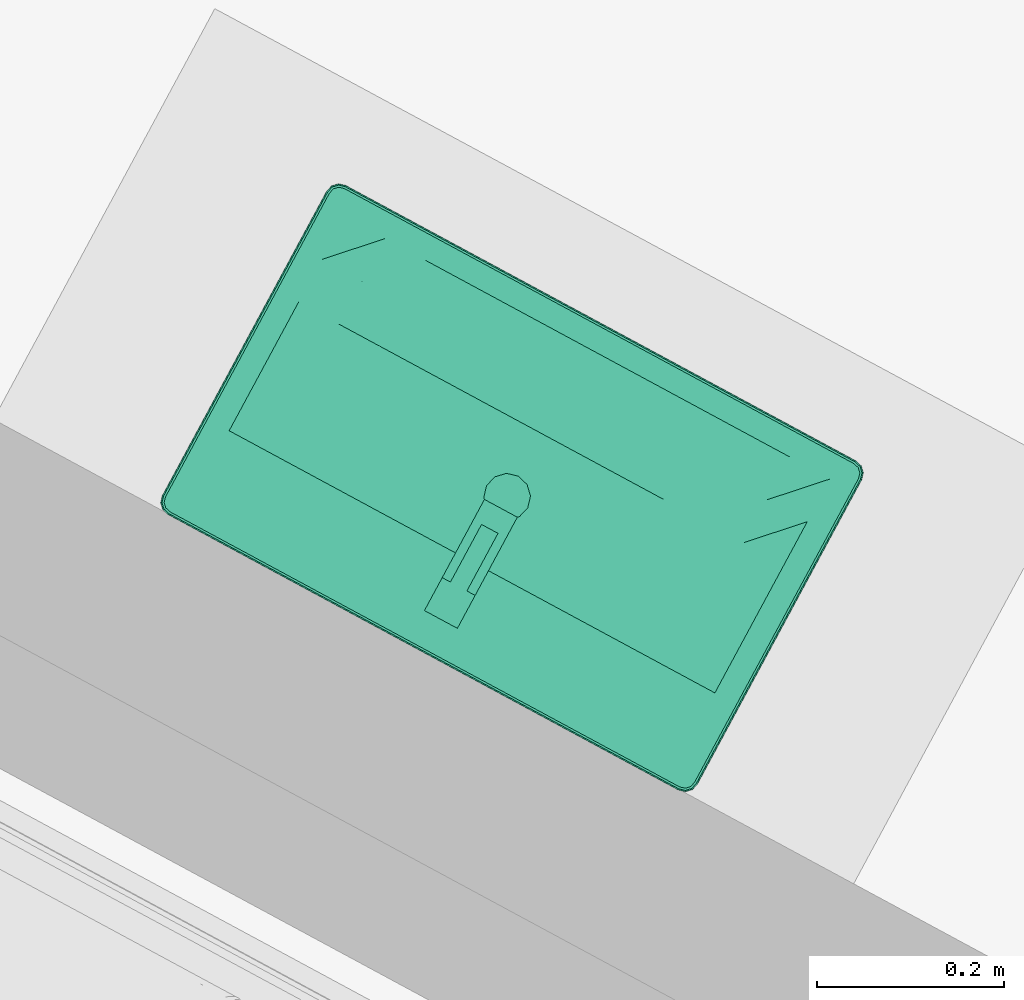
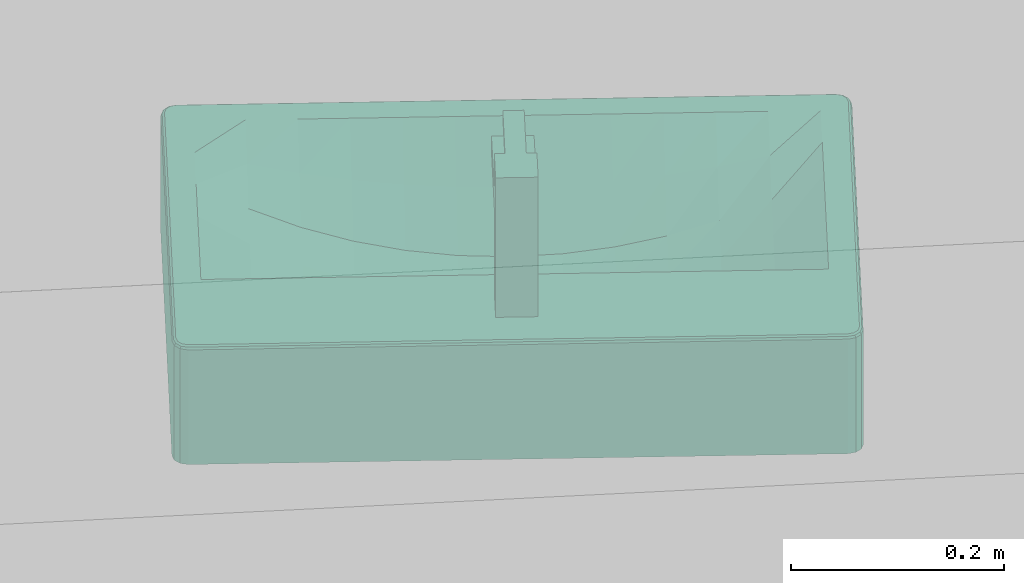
# One storey, part 16 of 41: 1 flow terminal.
"""IFC2X3 building model written with IfcOpenShell, lengths in metres."""

import ifcopenshell
import ifcopenshell.guid

model = None  # the IFC model being written
_history = None  # IfcOwnerHistory: only IFC2X3 demands one
_inside = {}  # id of a spatial element -> (the spatial element, [elements in it])
_under = {}  # id of a project, library or spatial element -> (it, [spatial elements below it])
_declared = {}  # id of a project -> (the project, [libraries it declares])
_typed = {}  # id of a type object -> (the type object, [elements of that type])
_made_of = {}  # id of a material, layer set ... -> (it, [elements and type objects made of it])


def new_model(schema):
    """Start an empty IFC model of exactly this schema.

    Asked for "IFC4X3", IfcOpenShell would pick the latest addendum, in which some entities
    have other attributes; the version numbers below select the first issue.
    IFC2X3 requires an IfcOwnerHistory on every rooted entity: one is made here for all.
    """
    global model, _history
    if schema == "IFC4X3":
        model = ifcopenshell.file(schema_version=(4, 3, 0, 0))
    else:
        model = ifcopenshell.file(schema=schema)
    _inside.clear()
    _under.clear()
    _declared.clear()
    _typed.clear()
    _made_of.clear()
    _history = None
    if model.schema == "IFC2X3":
        org = make("IfcOrganization", Name="unknown")
        user = make(
            "IfcPersonAndOrganization",
            ThePerson=make("IfcPerson", FamilyName="unknown"),
            TheOrganization=org,
        )
        app = make(
            "IfcApplication",
            ApplicationDeveloper=org,
            Version="unknown",
            ApplicationFullName="unknown",
            ApplicationIdentifier="unknown",
        )
        _history = make(
            "IfcOwnerHistory",
            OwningUser=user,
            OwningApplication=app,
            ChangeAction="ADDED",
            CreationDate=0,
        )
    return model


def make(cls, **values):
    """One entity of the class cls with the attributes given. An attribute that is None is left unset."""
    return model.create_entity(
        cls, **{name: value for name, value in values.items() if value is not None}
    )


def entity(cls, *values):
    """Any entity or typed value of the class cls, its attributes in the order of the schema. None: left unset."""
    e = model.create_entity(cls)
    for i, value in enumerate(values):
        if value is not None:
            e[i] = value
    return e


def rooted(cls, **values):
    """An entity with a GlobalId (a new one), such as an element, a storey or a relation."""
    return make(cls, GlobalId=ifcopenshell.guid.new(), OwnerHistory=_history, **values)


def si_unit(unit_type, name, prefix=None):
    """IfcSIUnit, for example si_unit("LENGTHUNIT", "METRE", prefix="MILLI")."""
    return make("IfcSIUnit", UnitType=unit_type, Prefix=prefix, Name=name)


def converted_unit(unit_type, name, factor, base, dimensions=None, offset=None):
    """IfcConversionBasedUnit, such as the inch: factor (a typed value) times the base unit."""
    return make(
        "IfcConversionBasedUnit"
        if offset is None
        else "IfcConversionBasedUnitWithOffset",
        ConversionOffset=offset,
        Dimensions=None
        if dimensions is None
        else entity("IfcDimensionalExponents", *dimensions),
        UnitType=unit_type,
        Name=name,
        ConversionFactor=make(
            "IfcMeasureWithUnit", ValueComponent=factor, UnitComponent=base
        ),
    )


def derived_unit(unit_type, elements):
    """IfcDerivedUnit: a product of units, each with its exponent."""
    return make(
        "IfcDerivedUnit",
        Elements=[
            make("IfcDerivedUnitElement", Unit=unit, Exponent=power)
            for unit, power in elements
        ],
        UnitType=unit_type,
    )


def money_unit(currency):
    """IfcMonetaryUnit."""
    return make("IfcMonetaryUnit", Currency=currency)


def assignment(units):
    """IfcUnitAssignment: the units of a project."""
    return None if units is None else make("IfcUnitAssignment", Units=units)


def point(xyz):
    """IfcCartesianPoint."""
    return None if xyz is None else make("IfcCartesianPoint", Coordinates=xyz)


def direction(xyz):
    """IfcDirection."""
    return None if xyz is None else make("IfcDirection", DirectionRatios=xyz)


def frame(location, z_axis=None, x_axis=None):
    """IfcAxis2Placement3D, a coordinate frame: its origin and axes. An axis left out is left unset."""
    return make(
        "IfcAxis2Placement3D",
        Location=point(location),
        Axis=direction(z_axis),
        RefDirection=direction(x_axis),
    )


def origin_with_axes():
    """The frame at (0, 0, 0) with the z axis (0, 0, 1) and the x axis (1, 0, 0) written out."""
    return frame((0.0, 0.0, 0.0), z_axis=(0.0, 0.0, 1.0), x_axis=(1.0, 0.0, 0.0))


def place(relative_to, where):
    """IfcLocalPlacement: puts the frame where relative to a parent placement (None: the world)."""
    return make(
        "IfcLocalPlacement", PlacementRelTo=relative_to, RelativePlacement=where
    )


def context(
    kind, dimensions, precision=None, world=None, true_north=None, identifier=None
):
    """IfcGeometricRepresentationContext, for example the 3D "Model" context."""
    return make(
        "IfcGeometricRepresentationContext",
        ContextIdentifier=identifier,
        ContextType=kind,
        CoordinateSpaceDimension=dimensions,
        Precision=precision,
        WorldCoordinateSystem=world,
        TrueNorth=true_north,
    )


def subcontext(parent, identifier, kind, view, scale=None):
    """IfcGeometricRepresentationSubContext, for example "Body" below "Model"."""
    return make(
        "IfcGeometricRepresentationSubContext",
        ContextIdentifier=identifier,
        ContextType=kind,
        ParentContext=parent,
        TargetScale=scale,
        TargetView=view,
    )


def project(units=None, contexts=None):
    """IfcProject with its units and contexts."""
    return rooted(
        "IfcProject",
        Name="project",
        RepresentationContexts=contexts,
        UnitsInContext=assignment(units),
    )


def spatial(cls, under=None, at=None, **own):
    """A site, building, storey or space (cls), placed at a placement, below another one or the project."""
    s = rooted(cls, ObjectPlacement=at, **own)
    if under is not None:
        _under.setdefault(under.id(), (under, []))[1].append(s)
    return s


def faces_of(points, faces, orient=None, outer=None):
    """IfcFace entities. A face is a list of loops; a loop is a list of indices into points, from 0.

    orient and outer hold one flag for each loop. By default every Orientation is true, the
    first loop of a face is its IfcFaceOuterBound and the others are IfcFaceBound.
    """
    made = []
    for i, loops in enumerate(faces):
        bounds = []
        for j, loop in enumerate(loops):
            is_outer = j == 0 if outer is None else outer[i][j]
            bounds.append(
                make(
                    "IfcFaceOuterBound" if is_outer else "IfcFaceBound",
                    Bound=make("IfcPolyLoop", Polygon=[points[k] for k in loop]),
                    Orientation=True if orient is None else orient[i][j],
                )
            )
        made.append(make("IfcFace", Bounds=bounds))
    return made


def open_shell(faces, orient=None, outer=None):
    """The faces of one IfcOpenShell. surface_model builds it on its shared points."""
    return ("IfcOpenShell", faces, orient, outer)


def faceted_brep(points, faces, orient=None, outer=None, voids=None):
    """IfcFacetedBrep: a solid bounded by flat faces; with voids (closed shells), ...WithVoids."""
    shared = [point(p) for p in points]
    hull = make("IfcClosedShell", CfsFaces=faces_of(shared, faces, orient, outer))
    if voids is None:
        return make("IfcFacetedBrep", Outer=hull)
    return make(
        "IfcFacetedBrepWithVoids",
        Outer=hull,
        Voids=[
            make(cls, CfsFaces=faces_of(shared, fs, o, b)) for cls, fs, o, b in voids
        ],
    )


def surface_model(cls, points, shells):
    """IfcFaceBasedSurfaceModel or IfcShellBasedSurfaceModel (cls): surfaces that need not close."""
    shared = [point(p) for p in points]
    made = [make(c, CfsFaces=faces_of(shared, fs, o, b)) for c, fs, o, b in shells]
    if cls == "IfcFaceBasedSurfaceModel":
        return make(cls, FbsmFaces=made)
    return make(cls, SbsmBoundary=made)


def shape(context_of_items, identifier, shape_type, items):
    """IfcShapeRepresentation: the items that make up one representation, for example the "Body"."""
    return make(
        "IfcShapeRepresentation",
        ContextOfItems=context_of_items,
        RepresentationIdentifier=identifier,
        RepresentationType=shape_type,
        Items=items,
    )


def made_of(thing, what):
    """Note that an element or type object is made of a material, layer set ...; save() writes the relation."""
    if what is not None:
        _made_of.setdefault(what.id(), (what, []))[1].append(thing)
    return thing


def type_object(cls, material=None, **own):
    """A type object (cls), such as IfcWallType, which elements share."""
    return made_of(rooted(cls, **own), material)


def element(
    cls,
    number,
    at=None,
    inside=None,
    cuts=None,
    type_object=None,
    material=None,
    context=None,
    identifier="Body",
    shape_type=None,
    held_by="IfcProductDefinitionShape",
    body=None,
    shapes=None,
    **own,
):
    """One element of the class cls, such as IfcWall. Its Tag is "e" and its number.

    at: its placement. inside: the storey or other place that contains it. cuts: it is an
    opening in that element (IfcRelVoidsElement). A single representation is given by context,
    identifier, shape_type and body (its items); several are given by shapes. held_by: the class
    of the entity that holds the representations. save() writes the other relations.
    """
    e = rooted(cls, Tag="e%d" % number, ObjectPlacement=at, **own)
    if body is not None:
        shapes = [shape(context, identifier, shape_type, body)]
    if shapes is not None:
        e.Representation = make(held_by, Representations=shapes)
    if inside is not None:
        _inside.setdefault(inside.id(), (inside, []))[1].append(e)
    if cuts is not None:
        rooted(
            "IfcRelVoidsElement", RelatingBuildingElement=cuts, RelatedOpeningElement=e
        )
    if type_object is not None:
        _typed.setdefault(type_object.id(), (type_object, []))[1].append(e)
    return made_of(e, material)


def aggregate(whole, parts):
    """IfcRelAggregates: a whole, such as a stair, and the parts it consists of."""
    return rooted("IfcRelAggregates", RelatingObject=whole, RelatedObjects=parts)


def save(model, path):
    """Write the relations noted so far, then the file.

    IfcRelAggregates (storeys below a building ...), IfcRelContainedInSpatialStructure (elements
    in a storey), IfcRelDefinesByType, IfcRelAssociatesMaterial and IfcRelDeclares: one each for
    every whole, place, type object, material and project.
    """
    for whole, parts in _under.values():
        aggregate(whole, parts)
    for where, things in _inside.values():
        rooted(
            "IfcRelContainedInSpatialStructure",
            RelatedElements=things,
            RelatingStructure=where,
        )
    for kind, things in _typed.values():
        rooted("IfcRelDefinesByType", RelatedObjects=things, RelatingType=kind)
    for what, things in _made_of.values():
        rooted("IfcRelAssociatesMaterial", RelatedObjects=things, RelatingMaterial=what)
    for by, libraries in _declared.values():
        rooted("IfcRelDeclares", RelatingContext=by, RelatedDefinitions=libraries)
    model.write(path)


model = new_model("IFC2X3")

# Units and contexts
model_context = context("Model", 3, precision=1e-05, world=origin_with_axes(), true_north=direction((0.0, 1.0)))
body_context = subcontext(model_context, "Body", "Model", "MODEL_VIEW")
ifc_project = project(units=[si_unit("LENGTHUNIT", "METRE"), si_unit("AREAUNIT", "SQUARE_METRE"), si_unit("VOLUMEUNIT", "CUBIC_METRE"), converted_unit("PLANEANGLEUNIT", "DEGREE", entity("IfcPlaneAngleMeasure", 0.0174532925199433), si_unit("PLANEANGLEUNIT", "RADIAN"), dimensions=[0, 0, 0, 0, 0, 0, 0]), money_unit("EUR"), converted_unit("TIMEUNIT", "Year", entity("IfcTimeMeasure", 31556926.0), si_unit("TIMEUNIT", "SECOND"), dimensions=[0, 0, 1, 0, 0, 0, 0]), si_unit("MASSUNIT", "GRAM", prefix="KILO"), si_unit("THERMODYNAMICTEMPERATUREUNIT", "DEGREE_CELSIUS"), si_unit("LUMINOUSINTENSITYUNIT", "LUMEN"), si_unit("ENERGYUNIT", "JOULE", prefix="MEGA"), derived_unit("THERMALCONDUCTANCEUNIT", [(si_unit("POWERUNIT", "WATT"), 1), (si_unit("LENGTHUNIT", "METRE"), -1), (si_unit("THERMODYNAMICTEMPERATUREUNIT", "KELVIN"), -1)]), derived_unit("SPECIFICHEATCAPACITYUNIT", [(si_unit("ENERGYUNIT", "JOULE"), 1), (si_unit("MASSUNIT", "GRAM", prefix="KILO"), -1), (si_unit("THERMODYNAMICTEMPERATUREUNIT", "KELVIN"), -1)]), derived_unit("MASSDENSITYUNIT", [(si_unit("MASSUNIT", "GRAM", prefix="KILO"), 1), (si_unit("VOLUMEUNIT", "CUBIC_METRE"), -1)])], contexts=[model_context])

# Site, building, storey
site_placement = place(None, frame((-3.949935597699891, 1.740105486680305, 0.0), z_axis=(0.0, 0.0, 1.0), x_axis=(0.8799804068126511, -0.475009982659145, 0.0)))
site = spatial("IfcSite", under=ifc_project, at=site_placement, Name="Gelände", CompositionType="ELEMENT")
building_placement = place(site_placement, origin_with_axes())
building = spatial("IfcBuilding", under=site, at=building_placement, Name="Gebäude", CompositionType="ELEMENT")
storey_placement = place(building_placement, frame((0.0, 0.0, 4.55), z_axis=(0.0, 0.0, 1.0), x_axis=(1.0, 0.0, 0.0)))
storey = spatial("IfcBuildingStorey", under=building, at=storey_placement, Name="Staffelgeschoss", CompositionType="ELEMENT", Elevation=4.55)

# Flow terminal
sanitary_terminal_type = type_object("IfcSanitaryTerminalType", Name="Waschbecken 1 22", PredefinedType="NOTDEFINED")
flow_terminal_placement = place(storey_placement, frame((7.580280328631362, 5.492152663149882, 0.0), z_axis=(0.0, 0.0, 1.0), x_axis=(-1.0, 0.0, 0.0)))
element("IfcFlowTerminal", 1, at=flow_terminal_placement, inside=storey, type_object=sanitary_terminal_type, Name="Objekt-0061", context=body_context, shape_type="SurfaceModel", body=[
    faceted_brep([(0.3099999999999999, -0.4, 0.715), (-0.3100000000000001, -0.4, 0.715), (-0.3175, -0.3979903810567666, 0.715), (-0.3229903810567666, -0.3925, 0.715), (-0.3250000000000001, -0.385, 0.715), (-0.3250000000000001, -0.01499999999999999, 0.715), (-0.3229903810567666, -0.007500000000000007, 0.715), (-0.3175, -0.002009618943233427, 0.715), (-0.3100000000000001, 0.0, 0.715), (0.3099999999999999, 0.0, 0.715), (0.3175, -0.002009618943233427, 0.715), (0.3229903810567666, -0.007500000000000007, 0.715), (0.325, -0.01499999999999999, 0.715), (0.325, -0.385, 0.715), (0.3229903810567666, -0.3925, 0.715), (0.3175, -0.3979903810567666, 0.715), (-0.295, -0.37, 0.715), (0.295, -0.37, 0.715), (0.295, -0.11, 0.715), (-0.295, -0.11, 0.715), (0.3100000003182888, -0.4000000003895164, 0.845), (-0.3099999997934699, -0.4000000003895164, 0.845), (-0.3175000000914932, -0.3979903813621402, 0.845), (-0.3229903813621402, -0.3925000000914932, 0.845), (-0.3250000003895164, -0.3849999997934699, 0.845), (-0.3250000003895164, -0.01499999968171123, 0.845), (-0.3229903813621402, -0.00750000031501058, 0.845), (-0.3175000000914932, -0.002009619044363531, 0.845), (-0.3099999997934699, 0.0, 0.845), (0.3100000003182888, 0.0, 0.845), (0.3174999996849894, -0.002009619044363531, 0.845), (0.3229903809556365, -0.00750000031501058, 0.845), (0.3249999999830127, -0.01499999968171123, 0.845), (0.3249999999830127, -0.3849999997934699, 0.845), (0.3229903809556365, -0.3925000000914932, 0.845), (0.3174999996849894, -0.3979903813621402, 0.845), (-0.295, -0.37, 0.84999999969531), (0.295, -0.37, 0.84999999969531), (0.295, -0.11, 0.84999999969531), (-0.295, -0.11, 0.84999999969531), (0.3099775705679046, -0.3998296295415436, 0.8462940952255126), (-0.3099775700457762, -0.3998296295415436, 0.8462940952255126), (-0.3174118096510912, -0.3978376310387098, 0.8462940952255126), (-0.3228376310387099, -0.3924118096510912, 0.8462940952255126), (-0.3248296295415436, -0.3849775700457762, 0.8462940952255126), (-0.3248296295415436, -0.01502242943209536, 0.8462940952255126), (-0.3228376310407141, -0.007588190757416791, 0.8462940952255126), (-0.3174118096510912, -0.002162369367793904, 0.8462940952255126), (-0.3099775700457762, -0.0001703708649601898, 0.8462940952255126), (0.3099775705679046, -0.0001703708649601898, 0.8462940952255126), (0.3174118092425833, -0.002162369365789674, 0.8462940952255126), (0.3228376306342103, -0.007588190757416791, 0.8462940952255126), (0.3248296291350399, -0.01502242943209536, 0.8462940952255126), (0.3248296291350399, -0.3849775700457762, 0.8462940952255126), (0.3228376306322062, -0.3924118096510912, 0.8462940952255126), (0.3174118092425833, -0.3978376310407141, 0.8462940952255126), (-0.3093417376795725, -0.004999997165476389, 0.84999999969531), (-0.3149118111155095, -0.006492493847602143, 0.84999999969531), (-0.3185075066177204, -0.01008818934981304, 0.84999999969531), (-0.3200000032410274, -0.01565826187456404, 0.84999999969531), (-0.3200000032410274, -0.3843417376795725, 0.84999999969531), (-0.3185075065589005, -0.3899118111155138, 0.84999999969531), (-0.3149118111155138, -0.3935075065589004, 0.84999999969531), (-0.3093417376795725, -0.3950000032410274, 0.84999999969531), (0.309341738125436, -0.3950000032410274, 0.84999999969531), (0.314911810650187, -0.3935075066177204, 0.84999999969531), (0.3185075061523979, -0.3899118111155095, 0.84999999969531), (0.3200000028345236, -0.3843417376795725, 0.84999999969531), (0.3200000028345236, -0.01565826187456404, 0.84999999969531), (0.3185075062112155, -0.01008818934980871, 0.84999999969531), (0.3149118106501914, -0.006492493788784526, 0.84999999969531), (0.309341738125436, -0.004999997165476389, 0.84999999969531), (0.3098071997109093, -0.3985355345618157, 0.8485355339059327), (-0.309807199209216, -0.3985355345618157, 0.8485355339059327), (-0.3167419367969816, -0.3966773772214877, 0.8485355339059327), (-0.3216773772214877, -0.3917419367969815, 0.8485355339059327), (-0.3235355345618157, -0.384807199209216, 0.8485355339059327), (-0.3235355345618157, -0.0151928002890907, 0.8485355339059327), (-0.3216773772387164, -0.008258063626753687, 0.8485355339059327), (-0.3167419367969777, -0.003322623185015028, 0.8485355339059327), (-0.309807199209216, -0.001464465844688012, 0.8485355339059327), (0.3098071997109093, -0.001464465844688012, 0.8485355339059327), (0.3167419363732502, -0.003322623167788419, 0.8485355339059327), (0.3216773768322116, -0.008258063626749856, 0.8485355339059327), (0.323535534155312, -0.0151928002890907, 0.8485355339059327), (0.323535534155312, -0.384807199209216, 0.8485355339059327), (0.321677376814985, -0.3917419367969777, 0.8485355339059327), (0.3167419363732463, -0.3966773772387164, 0.8485355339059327), (-0.3155816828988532, -0.005332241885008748, 0.8498296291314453), (-0.3095121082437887, -0.00370590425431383, 0.8498296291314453), (-0.3196677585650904, -0.009418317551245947, 0.8498296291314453), (-0.32129409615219, -0.01548789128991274, 0.8498296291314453), (-0.32129409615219, -0.3845121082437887, 0.8498296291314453), (-0.319667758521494, -0.3905816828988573, 0.8498296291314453), (-0.3155816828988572, -0.3946677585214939, 0.8498296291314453), (-0.3095121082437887, -0.3962940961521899, 0.8498296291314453), (0.3095121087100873, -0.3962940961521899, 0.8498296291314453), (0.3155816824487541, -0.3946677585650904, 0.8498296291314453), (0.3196677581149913, -0.3905816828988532, 0.8498296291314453), (0.3212940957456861, -0.3845121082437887, 0.8498296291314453), (0.3212940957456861, -0.01548789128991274, 0.8498296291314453), (0.3196677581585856, -0.00941831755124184, 0.8498296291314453), (0.3155816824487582, -0.005332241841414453, 0.8498296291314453), (0.3095121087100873, -0.00370590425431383, 0.8498296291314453)], [[[0, 1, 2, 3, 4, 5, 6, 7, 8, 9, 10, 11, 12, 13, 14, 15], [16, 17, 18, 19]], [[0, 20, 21, 1]], [[1, 21, 22, 2]], [[2, 22, 23, 3]], [[3, 23, 24, 4]], [[4, 24, 25, 5]], [[5, 25, 26, 6]], [[6, 26, 27, 7]], [[7, 27, 28, 8]], [[8, 28, 29, 9]], [[9, 29, 30, 10]], [[10, 30, 31, 11]], [[11, 31, 32, 12]], [[12, 32, 33, 13]], [[13, 33, 34, 14]], [[14, 34, 35, 15]], [[15, 35, 20, 0]], [[36, 37, 17, 16]], [[37, 38, 18, 17]], [[38, 39, 19, 18]], [[39, 36, 16, 19]], [[20, 40, 41, 21]], [[21, 41, 42, 22]], [[22, 42, 43, 23]], [[23, 43, 44, 24]], [[24, 44, 45, 25]], [[25, 45, 46, 26]], [[26, 46, 47, 27]], [[27, 47, 48, 28]], [[28, 48, 49, 29]], [[29, 49, 50, 30]], [[30, 50, 51, 31]], [[31, 51, 52, 32]], [[32, 52, 53, 33]], [[33, 53, 54, 34]], [[34, 54, 55, 35]], [[35, 55, 40, 20]], [[56, 57, 58, 59, 60, 61, 62, 63, 64, 65, 66, 67, 68, 69, 70, 71], [36, 39, 38, 37]], [[40, 72, 73, 41]], [[41, 73, 74, 42]], [[42, 74, 75, 43]], [[43, 75, 76, 44]], [[44, 76, 77, 45]], [[45, 77, 78, 46]], [[46, 78, 79, 47]], [[47, 79, 80, 48]], [[48, 80, 81, 49]], [[49, 81, 82, 50]], [[50, 82, 83, 51]], [[51, 83, 84, 52]], [[52, 84, 85, 53]], [[53, 85, 86, 54]], [[54, 86, 87, 55]], [[55, 87, 72, 40]], [[88, 57, 56, 89]], [[90, 58, 57, 88]], [[91, 59, 58, 90]], [[92, 60, 59, 91]], [[93, 61, 60, 92]], [[94, 62, 61, 93]], [[95, 63, 62, 94]], [[96, 64, 63, 95]], [[97, 65, 64, 96]], [[98, 66, 65, 97]], [[99, 67, 66, 98]], [[100, 68, 67, 99]], [[101, 69, 68, 100]], [[102, 70, 69, 101]], [[103, 71, 70, 102]], [[89, 56, 71, 103]], [[72, 96, 95, 73]], [[73, 95, 94, 74]], [[74, 94, 93, 75]], [[75, 93, 92, 76]], [[76, 92, 91, 77]], [[77, 91, 90, 78]], [[78, 90, 88, 79]], [[79, 88, 89, 80]], [[80, 89, 103, 81]], [[81, 103, 102, 82]], [[82, 102, 101, 83]], [[83, 101, 100, 84]], [[84, 100, 99, 85]], [[85, 99, 98, 86]], [[86, 98, 97, 87]], [[87, 97, 96, 72]]]),
    faceted_brep([(-0.295, -0.37, 0.715), (-0.295, -0.11, 0.715), (0.295, -0.11, 0.715), (0.295, -0.37, 0.715), (0.01249999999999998, -0.210733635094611, 0.715), (0.02165063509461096, -0.201583, 0.715), (0.025, -0.189083, 0.715), (0.02165063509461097, -0.176583, 0.715), (0.01250000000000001, -0.167432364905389, 0.715), (0.0, -0.164083, 0.715), (-0.01249999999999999, -0.167432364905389, 0.715), (-0.02165063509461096, -0.176583, 0.715), (-0.025, -0.189083, 0.715), (-0.02165063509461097, -0.201583, 0.715), (-0.01250000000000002, -0.210733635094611, 0.715), (0.0, -0.214083, 0.715), (-0.295, -0.266, 0.8499999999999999), (-0.295, -0.214, 0.85), (-0.295, -0.162, 0.85), (-0.295, -0.11, 0.85), (-0.295, -0.37, 0.85), (-0.295, -0.318, 0.8500000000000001), (0.1475, -0.11, 0.7729670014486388), (0.1966666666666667, -0.11, 0.7916517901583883), (0.2458333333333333, -0.11, 0.8168998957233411), (0.295, -0.11, 0.8500000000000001), (-0.2458333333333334, -0.11, 0.8168998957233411), (-0.1966666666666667, -0.11, 0.7916517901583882), (-0.1475, -0.11, 0.7729670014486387), (-0.09833333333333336, -0.11, 0.7600704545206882), (-0.04916666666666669, -0.11, 0.7524979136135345), (0.0, -0.11, 0.75), (0.04916666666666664, -0.11, 0.7524979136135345), (0.09833333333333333, -0.11, 0.7600704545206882), (0.295, -0.214, 0.8500000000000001), (0.295, -0.266, 0.8500000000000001), (0.295, -0.318, 0.8500000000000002), (0.295, -0.37, 0.85), (0.295, -0.162, 0.8500000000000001), (-0.1475, -0.37, 0.85), (-0.1966666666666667, -0.37, 0.85), (-0.2458333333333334, -0.37, 0.85), (0.2458333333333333, -0.37, 0.85), (0.1966666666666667, -0.37, 0.85), (0.1475, -0.37, 0.85), (0.09833333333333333, -0.37, 0.85), (0.04916666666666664, -0.37, 0.85), (0.0, -0.37, 0.85), (-0.04916666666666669, -0.37, 0.85), (-0.09833333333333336, -0.37, 0.85), (0.01249999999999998, -0.210733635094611, 0.750635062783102), (0.02165063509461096, -0.201583, 0.7510999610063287), (0.025, -0.189083, 0.751270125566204), (0.02165063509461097, -0.176583, 0.7510999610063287), (0.01250000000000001, -0.167432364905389, 0.750635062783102), (0.0, -0.164083, 0.75), (-0.01249999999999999, -0.167432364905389, 0.750635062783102), (-0.02165063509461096, -0.176583, 0.7510999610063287), (-0.025, -0.189083, 0.751270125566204), (-0.02165063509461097, -0.201583, 0.7510999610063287), (-0.01250000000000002, -0.210733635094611, 0.750635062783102), (-6.261427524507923e-05, -0.2140662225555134, 0.7500169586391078), (0.0, -0.214083, 0.7500176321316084), (-0.0003097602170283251, -0.214, 0.7500157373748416), (0.0003097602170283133, -0.214, 0.7500157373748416), (-0.2458333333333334, -0.214, 0.8168998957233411), (-0.2458333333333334, -0.162, 0.8168998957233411), (-0.2458333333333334, -0.318, 0.8357260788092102), (-0.2458333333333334, -0.266, 0.8210440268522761), (0.1966666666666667, -0.162, 0.7916517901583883), (0.1475, -0.162, 0.7729670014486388), (0.2458333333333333, -0.162, 0.8168998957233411), (-0.1966666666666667, -0.162, 0.7916517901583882), (-0.1475, -0.162, 0.7729670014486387), (-0.09833333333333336, -0.162, 0.7600704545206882), (-0.04916666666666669, -0.162, 0.7524979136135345), (0.0, -0.162, 0.75), (0.04916666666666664, -0.162, 0.7524979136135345), (0.09833333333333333, -0.162, 0.7600704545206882), (0.2458333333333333, -0.266, 0.8210440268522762), (0.2458333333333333, -0.318, 0.8357260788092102), (0.2458333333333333, -0.214, 0.8168998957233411), (-0.1475, -0.318, 0.8153432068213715), (-0.1966666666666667, -0.318, 0.8242069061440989), (0.1966666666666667, -0.318, 0.8242069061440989), (0.1475, -0.318, 0.8153432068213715), (0.09833333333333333, -0.318, 0.8090618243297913), (0.04916666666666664, -0.318, 0.8053125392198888), (0.0, -0.318, 0.8040659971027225), (-0.04916666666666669, -0.318, 0.8053125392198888), (-0.09833333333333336, -0.318, 0.8090618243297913), (0.04916666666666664, -0.214, 0.7524979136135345), (-0.04916666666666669, -0.214, 0.7524979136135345), (-0.04916666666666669, -0.266, 0.7633164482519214), (0.0, -0.266, 0.7610466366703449), (-0.1966666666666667, -0.214, 0.7916517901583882), (0.1966666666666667, -0.214, 0.7916517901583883), (0.1475, -0.214, 0.7729670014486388), (-0.1475, -0.214, 0.7729670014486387), (-0.09833333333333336, -0.214, 0.7600704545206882), (0.09833333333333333, -0.214, 0.7600704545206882), (-0.09833333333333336, -0.266, 0.7701848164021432), (0.04916666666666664, -0.266, 0.7633164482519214), (-0.1966666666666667, -0.266, 0.7986083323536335), (0.1475, -0.266, 0.7818364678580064), (0.1966666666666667, -0.266, 0.7986083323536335), (-0.1475, -0.266, 0.7818364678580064), (0.09833333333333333, -0.266, 0.7701848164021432)], [[[0, 1, 2, 3], [4, 5, 6, 7, 8, 9, 10, 11, 12, 13, 14, 15]], [[16, 17, 18, 19, 1, 0, 20, 21]], [[22, 23, 24, 25, 2, 1, 19, 26, 27, 28, 29, 30, 31, 32, 33]], [[34, 35, 36, 37, 3, 2, 25, 38]], [[39, 40, 41, 20, 0, 3, 37, 42, 43, 44, 45, 46, 47, 48, 49]], [[50, 51, 5, 4]], [[51, 52, 6, 5]], [[52, 53, 7, 6]], [[53, 54, 8, 7]], [[54, 55, 9, 8]], [[55, 56, 10, 9]], [[56, 57, 11, 10]], [[57, 58, 12, 11]], [[58, 59, 13, 12]], [[59, 60, 14, 13]], [[61, 62, 15, 14, 60, 63]], [[64, 50, 4, 15, 62]], [[16, 65, 17]], [[65, 66, 18, 17]], [[66, 26, 19, 18]], [[20, 67, 21]], [[21, 68, 16]], [[69, 23, 22, 70]], [[71, 24, 23, 69]], [[38, 25, 24, 71]], [[72, 27, 26, 66]], [[73, 28, 27, 72]], [[74, 29, 28, 73]], [[75, 30, 29, 74]], [[76, 31, 30, 75]], [[77, 32, 31, 76]], [[78, 33, 32, 77]], [[70, 22, 33, 78]], [[79, 35, 34]], [[80, 36, 35]], [[42, 37, 36]], [[34, 38, 71, 81]], [[40, 39, 82]], [[41, 40, 83]], [[20, 41, 67]], [[43, 42, 80]], [[44, 43, 84]], [[45, 44, 85]], [[46, 45, 86]], [[47, 46, 87]], [[48, 47, 88]], [[49, 48, 89]], [[39, 49, 90]], [[54, 53, 52, 51, 50, 64, 91, 77, 76, 55]], [[56, 55, 76, 75, 92, 63, 60, 59, 58, 57]], [[62, 61, 93, 94]], [[61, 63, 92, 93]], [[64, 62, 94, 91]], [[16, 68, 65]], [[95, 72, 66, 65]], [[21, 67, 68]], [[96, 69, 70, 97]], [[81, 71, 69, 96]], [[98, 73, 72, 95]], [[99, 74, 73, 98]], [[92, 75, 74, 99]], [[100, 78, 77, 91]], [[97, 70, 78, 100]], [[80, 35, 79]], [[79, 34, 81]], [[42, 36, 80]], [[39, 90, 82]], [[40, 82, 83]], [[41, 83, 67]], [[43, 80, 84]], [[44, 84, 85]], [[45, 85, 86]], [[46, 86, 87]], [[47, 87, 88]], [[48, 88, 89]], [[49, 89, 90]], [[89, 94, 93]], [[101, 93, 92]], [[94, 102, 91]], [[68, 95, 65]], [[67, 103, 68]], [[104, 96, 97]], [[105, 81, 96]], [[103, 98, 95]], [[106, 99, 98]], [[101, 92, 99]], [[102, 100, 91]], [[107, 97, 100]], [[84, 80, 79]], [[105, 79, 81]], [[82, 90, 101]], [[83, 82, 106]], [[67, 83, 103]], [[85, 84, 105]], [[86, 85, 104]], [[87, 86, 107]], [[88, 87, 102]], [[89, 88, 94]], [[90, 89, 93]], [[90, 93, 101]], [[88, 102, 94]], [[68, 103, 95]], [[104, 105, 96]], [[107, 104, 97]], [[103, 106, 98]], [[106, 101, 99]], [[102, 107, 100]], [[84, 79, 105]], [[82, 101, 106]], [[83, 106, 103]], [[85, 105, 104]], [[86, 104, 107]], [[87, 107, 102]]]),
    faceted_brep([(0.02165063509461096, -0.201583, 0.75), (0.01249999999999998, -0.210733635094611, 0.75), (0.0, -0.214083, 0.75), (-0.01250000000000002, -0.210733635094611, 0.75), (-0.02165063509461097, -0.201583, 0.75), (-0.025, -0.189083, 0.75), (-0.02165063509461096, -0.176583, 0.75), (-0.01249999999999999, -0.167432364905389, 0.75), (0.0, -0.164083, 0.75), (0.01250000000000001, -0.167432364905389, 0.75), (0.02165063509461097, -0.176583, 0.75), (0.025, -0.189083, 0.75), (0.02165063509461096, -0.201583, 0.755), (0.01249999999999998, -0.210733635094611, 0.755), (0.0, -0.214083, 0.755), (-0.01250000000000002, -0.210733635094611, 0.755), (-0.02165063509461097, -0.201583, 0.755), (-0.025, -0.189083, 0.755), (-0.02165063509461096, -0.176583, 0.755), (-0.01249999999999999, -0.167432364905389, 0.755), (0.0, -0.164083, 0.755), (0.01250000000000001, -0.167432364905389, 0.755), (0.02165063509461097, -0.176583, 0.755), (0.025, -0.189083, 0.755)], [[[0, 1, 2, 3, 4, 5, 6, 7, 8, 9, 10, 11]], [[1, 0, 12, 13]], [[2, 1, 13, 14]], [[3, 2, 14, 15]], [[4, 3, 15, 16]], [[5, 4, 16, 17]], [[6, 5, 17, 18]], [[7, 6, 18, 19]], [[8, 7, 19, 20]], [[9, 8, 20, 21]], [[10, 9, 21, 22]], [[11, 10, 22, 23]], [[0, 11, 23, 12]], [[12, 23, 22, 21, 20, 19, 18, 17, 16, 15, 14, 13]]]),
    surface_model("IfcShellBasedSurfaceModel", [(0.0, -0.189083, 0.757), (0.0, -0.17646109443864, 0.7564975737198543), (-0.006310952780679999, -0.1781521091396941, 0.7564975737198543), (0.006310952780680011, -0.1781521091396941, 0.7564975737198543), (0.0, -0.164083, 0.755), (-0.0125, -0.167432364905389, 0.755), (-0.01093089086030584, -0.18277204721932, 0.7564975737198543), (0.01093089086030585, -0.18277204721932, 0.7564975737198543), (0.01250000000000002, -0.167432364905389, 0.755), (-0.02165063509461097, -0.176583, 0.755), (-0.01262190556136, -0.189083, 0.7564975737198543), (0.01262190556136, -0.189083, 0.7564975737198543), (0.02165063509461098, -0.176583, 0.755), (-0.025, -0.189083, 0.755), (-0.01093089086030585, -0.19539395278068, 0.7564975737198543), (0.01093089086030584, -0.19539395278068, 0.7564975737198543), (0.025, -0.189083, 0.755), (-0.02165063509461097, -0.201583, 0.755), (-0.006310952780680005, -0.2000138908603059, 0.7564975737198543), (0.006310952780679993, -0.2000138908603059, 0.7564975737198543), (0.02165063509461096, -0.201583, 0.755), (-0.01250000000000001, -0.210733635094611, 0.755), (0.0, -0.20170490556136, 0.7564975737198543), (0.01249999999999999, -0.210733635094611, 0.755), (0.0, -0.214083, 0.755)], [open_shell([[[0, 1, 2]], [[0, 3, 1]], [[2, 1, 4, 5]], [[0, 2, 6]], [[0, 7, 3]], [[1, 3, 8, 4]], [[6, 2, 5, 9]], [[0, 6, 10]], [[0, 11, 7]], [[3, 7, 12, 8]], [[10, 6, 9, 13]], [[0, 10, 14]], [[0, 15, 11]], [[7, 11, 16, 12]], [[14, 10, 13, 17]], [[0, 14, 18]], [[0, 19, 15]], [[11, 15, 20, 16]], [[18, 14, 17, 21]], [[0, 18, 22]], [[0, 22, 19]], [[15, 19, 23, 20]], [[22, 18, 21, 24]], [[19, 22, 24, 23]]])]),
    faceted_brep([(0.02, -0.03999999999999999, 0.85), (0.02, -0.08, 0.85), (-0.02, -0.08, 0.85), (-0.02, -0.04, 0.85), (0.02000000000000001, -0.03999999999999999, 0.97), (0.02000000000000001, -0.08, 0.97), (0.02000000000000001, -0.175, 0.9633569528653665), (0.02000000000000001, -0.175, 0.945), (0.02000000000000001, -0.08, 0.945), (-0.01999999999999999, -0.08, 0.945), (-0.01999999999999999, -0.175, 0.945), (-0.01999999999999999, -0.175, 0.9633569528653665), (-0.01999999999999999, -0.08, 0.97), (-0.01999999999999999, -0.04, 0.97)], [[[0, 1, 2, 3]], [[0, 4, 5, 6, 7, 8, 1]], [[1, 8, 9, 2]], [[3, 2, 9, 10, 11, 12, 13]], [[4, 0, 3, 13]], [[5, 4, 13, 12]], [[6, 5, 12, 11]], [[7, 6, 11, 10]], [[8, 7, 10, 9]]]),
    faceted_brep([(0.02, -0.03999999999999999, 0.97), (0.02, -0.08, 0.97), (-0.02, -0.08, 0.97), (-0.02, -0.04, 0.97), (0.02, -0.03999999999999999, 1.01), (0.02, -0.08, 1.01), (-0.01999999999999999, -0.08, 1.01), (-0.02, -0.04, 1.01)], [[[0, 1, 2, 3]], [[0, 4, 5, 1]], [[1, 5, 6, 2]], [[3, 2, 6, 7]], [[4, 0, 3, 7]], [[5, 4, 7, 6]]]),
    faceted_brep([(0.01, -0.08, 1.0), (0.01000000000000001, -0.15, 1.0), (-0.009999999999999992, -0.15, 1.0), (-0.009999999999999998, -0.08, 1.0), (0.01, -0.08, 1.01), (0.01000000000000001, -0.15, 1.01), (-0.009999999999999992, -0.15, 1.01), (-0.009999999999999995, -0.08, 1.01)], [[[0, 1, 2, 3]], [[0, 4, 5, 1]], [[1, 5, 6, 2]], [[3, 2, 6, 7]], [[4, 0, 3, 7]], [[5, 4, 7, 6]]]),
])

save(model, "model.ifc")
